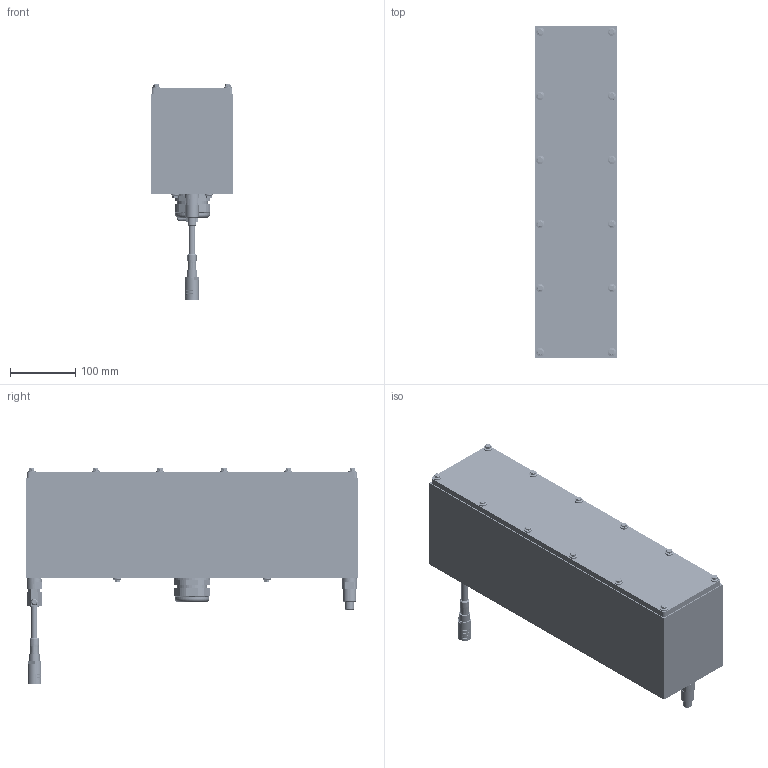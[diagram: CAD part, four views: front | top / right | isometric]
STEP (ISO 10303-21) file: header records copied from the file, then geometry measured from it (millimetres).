
FILE_DESCRIPTION (( 'STEP AP203' ), '1' );
FILE_NAME ('LL-FW.STEP', '2023-06-13T14:38:16', ( '' ), ( '' ), 'SwSTEP 2.0', 'SolidWorks 2021', '' );
FILE_SCHEMA (( 'CONFIG_CONTROL_DESIGN' ));
Length unit declared in the file: inch
Products named in the file (26): 800005; PG36-I01; PG11-S01; PG36-S01; 600041; 800009; 201668; 201670; 800004_BOM; 500272; 400102; 312312US-1100S020; PG36-01-01-01-01; PG36-B01; SP-M5-2; LL-FW; 600009; Mech Mind LSR L; 400295; PG11-N03; 91292A191; 4548K131_4548K131; 201669; CLSS-M5-1; 201671; PG36-N01
Assembly tree (60 placements, depth 3):
  LL-FW
    201671
      201670
      SP-M5-2  x12
    201669
      201668
      CLSS-M5-1  x4
    400295
    500272
    PG11-N03  x2
    PG36-01-01-01-01
      PG36-B01
      PG36-I01
      PG36-S01
      PG36-N01
    800004_BOM  x16
      800005
      400102
    91292A191  x4
    600009
    312312US-1100S020
    4548K131_4548K131
    PG11-S01  x2
    800009  x2
    600041
    Mech Mind LSR L
Bounding box: 127 x 508 x 329.43 mm (x, y, z)
Volume: 3888103.7 mm3; surface area: 1061194.6 mm2
Topology: 72 solids, 72 shells, 3541 faces, 8888 edges, 5777 vertices
Faces by surface type: plane 1947, cylinder 1019, cone 376, bspline 176, torus 23
Full cylindrical faces by diameter (mm): 0.8 x7, 1.2 x4, 2.05 x6, 4.2 x4, 4.4 x12, 5 x16, 5.5 x4, 6 x14, 6.35 x29, 7.772 x2, 8.5 x4, 9 x2, 9.246 x1, 9.525 x1, 10.236 x1, 10.516 x2, 10.518 x2, 11.4 x2, 12 x16, 12.625 x16, 12.7 x2, 13 x2, 13.4 x1, 13.5 x1, 13.891 x1, 16.001 x1, 16.002 x1, 16.339 x2, 17.272 x2, 18.796 x4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
Entity records: 104135 total; most frequent: CARTESIAN_POINT 58353, ORIENTED_EDGE 9020, DIRECTION 7570, EDGE_CURVE 4510, VERTEX_POINT 3032, AXIS2_PLACEMENT_3D 2543, VECTOR 2484, LINE 2484
